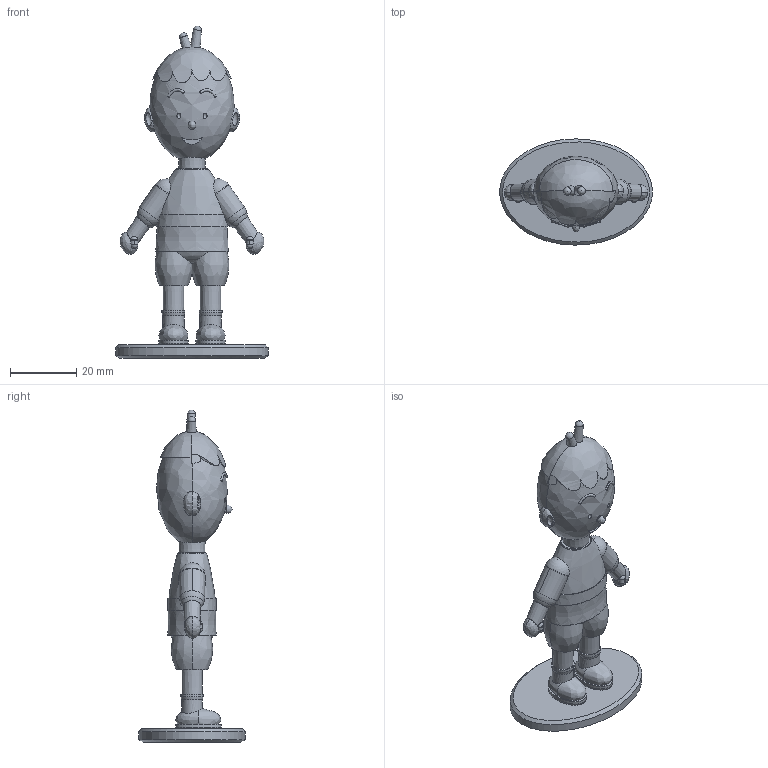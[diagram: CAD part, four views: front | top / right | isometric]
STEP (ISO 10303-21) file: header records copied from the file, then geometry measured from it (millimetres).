
FILE_DESCRIPTION(('Open CASCADE Model'),'2;1');
FILE_NAME('Open CASCADE Shape Model','2026-10-26T11:13:38',('Author'),( 'Open CASCADE'),'Open CASCADE STEP processor 8.0','Open CASCADE 8.0' ,'Unknown');
FILE_SCHEMA(('AUTOMOTIVE_DESIGN { 1 0 10303 214 1 1 1 1 }'));
Length unit declared in the file: millimetre
Products named in the file (1): Kobo-chan - stylized display figure (mm)
Bounding box: 46 x 31.99 x 100 mm (x, y, z)
Volume: 24673.9 mm3; surface area: 8830.3 mm2
Topology: 1 solids, 1 shells, 126 faces, 351 edges, 217 vertices
Faces by surface type: bspline 53, plane 24, sphere 23, cone 14, extrusion 12
Entity records: 37057 total; most frequent: CARTESIAN_POINT 31403, B_SPLINE_CURVE_WITH_KNOTS 812, ORIENTED_EDGE 644, PCURVE 644, DEFINITIONAL_REPRESENTATION 644, DIRECTION 326, EDGE_CURVE 322, SURFACE_CURVE 288
